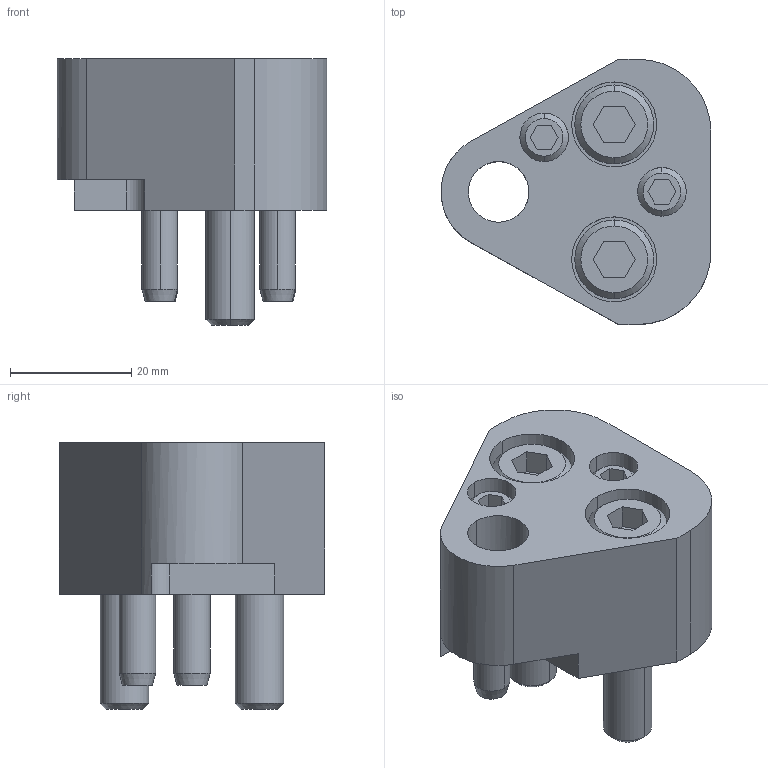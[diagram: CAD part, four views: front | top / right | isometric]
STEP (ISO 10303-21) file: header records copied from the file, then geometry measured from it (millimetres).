
FILE_DESCRIPTION(/* description */ (''),/* implementation_level */ '2;1');
FILE_NAME(/* name */ '3d_25crnfr10_03152_r00.stp',/* time_stamp */ '2011-01-10T14:17:52+09:00',/* author */ ('MISUMI'),/* organization */ (''),/* preprocessor_version */ 'ST-DEVELOPER v11',/* originating_system */ 'UGS - NX 5.0',/* authorisation */ '');
FILE_SCHEMA (('CONFIG_CONTROL_DESIGN'));
Length unit declared in the file: millimetre
Products named in the file (1): 3d_25crnfr10_03152_r00
Bounding box: 44.49 x 43.7 x 44 mm (x, y, z)
Volume: 32785.2 mm3; surface area: 14335.1 mm2
Topology: 7 solids, 7 shells, 136 faces, 304 edges, 195 vertices
Faces by surface type: plane 62, cylinder 48, cone 26
Entity records: 3927 total; most frequent: DIRECTION 695, CARTESIAN_POINT 695, ORIENTED_EDGE 608, EDGE_CURVE 304, AXIS2_PLACEMENT_3D 261, VERTEX_POINT 195, LINE 173, VECTOR 173
